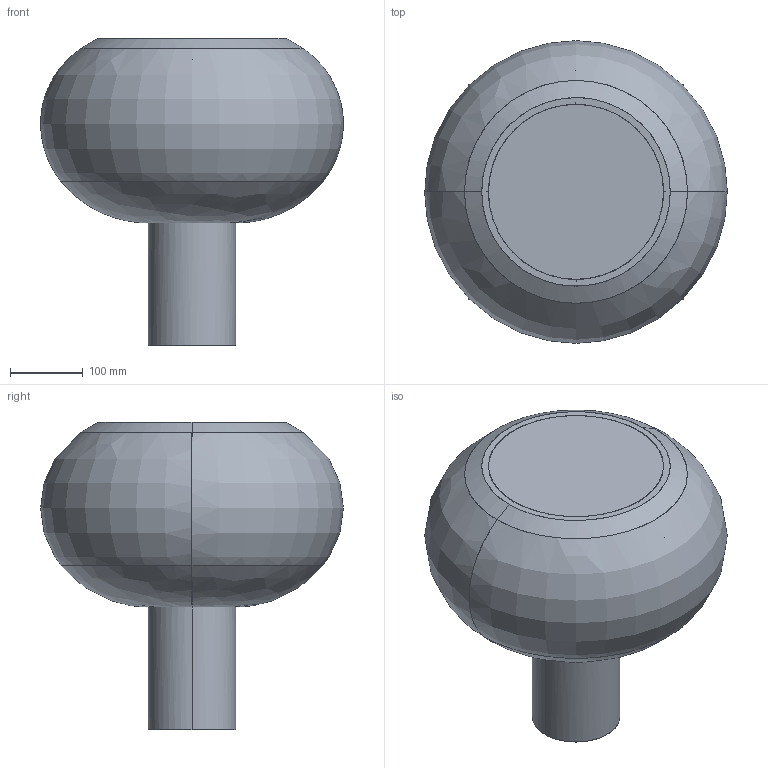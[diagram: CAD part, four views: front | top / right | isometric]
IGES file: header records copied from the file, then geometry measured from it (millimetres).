
Global section: file name: 93HF:\foscarini\RS\3D-2D\FOSCARINI\CATALOGO 2015\BUDS\3d (3ds; native system: dxf; preprocessor: stp; author: 160829.094641; organization: 0.0001D0; date: MM
Bounding box: 415.04 x 415.07 x 421 mm (x, y, z)
Surface area: 1323533.3 mm2 (no closed solid volume)
Topology: 0 solids, 0 shells, 164 faces, 1120 edges, 1120 vertices
Faces by surface type: bspline 164
